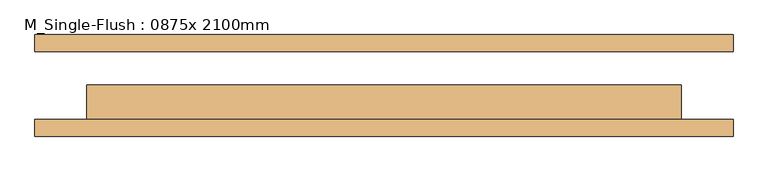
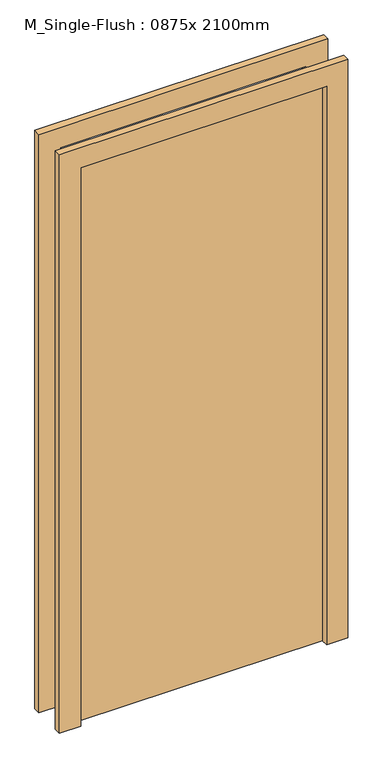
"""IFC4 building model written with IfcOpenShell, lengths in millimetres: door geometry, M_Single-Flush : 0875x 2100mm."""

from ifc_helpers import new_model, si_unit, frame, origin, origin_with_axes, place, context, project, spatial, polyline, outline, extrude, source, transform, mapped, element, save


def m_single_flush_0875x_2100mm_75bba9fe(model_context):
    return source(origin(), model_context, "Body", "SweptSolid", [
        extrude(outline(polyline([(2176.0, -513.5), (0.0, -513.5), (0.0, -437.5), (2100.0, -437.5), (2100.0, 437.5), (0.0, 437.5), (0.0, 513.5), (2176.0, 513.5), (2176.0, -513.5)])), frame((0.0, -75.0, 0.0), z_axis=(0.0, 1.0, 0.0), x_axis=(0.0, 0.0, 1.0)), (0.0, 0.0, 1.0), 25.0),
        extrude(outline(polyline([(2176.0, 513.5), (2176.0, -513.5), (0.0, -513.5), (0.0, -437.5), (2100.0, -437.5), (2100.0, 437.5), (0.0, 437.5), (0.0, 513.5), (2176.0, 513.5)])), frame((0.0, 50.0, 0.0), z_axis=(0.0, 1.0, 0.0), x_axis=(0.0, 0.0, 1.0)), (0.0, 0.0, 1.0), 25.0),
        extrude(outline(polyline([(437.5, 1.0), (437.5, -50.0), (-437.5, -50.0), (-437.5, 1.0), (437.5, 1.0)])), origin_with_axes(), (0.0, 0.0, 1.0), 2100.0),
    ])


if __name__ == "__main__":
    model = new_model("IFC4")
    model_context = context("Model", 3, world=origin())
    ifc_project = project(units=[si_unit("LENGTHUNIT", "METRE", prefix="MILLI")], contexts=[model_context])
    site = spatial("IfcSite", under=ifc_project)
    building = spatial("IfcBuilding", under=site)
    placement = place(None, origin())
    m_single_flush_0875x_2100mm_shape = m_single_flush_0875x_2100mm_75bba9fe(model_context)
    element("IfcDoor", 1, ObjectType="M_Single-Flush : 0875x 2100mm", at=placement, inside=building, context=model_context, shape_type="MappedRepresentation", body=[
        mapped(m_single_flush_0875x_2100mm_shape, transform((0.0, 0.0, 0.0), x_axis=(1.0, 0.0, 0.0), y_axis=(0.0, 1.0, 0.0), z_axis=(0.0, 0.0, 1.0))),
    ])
    save(model, "model.ifc")
